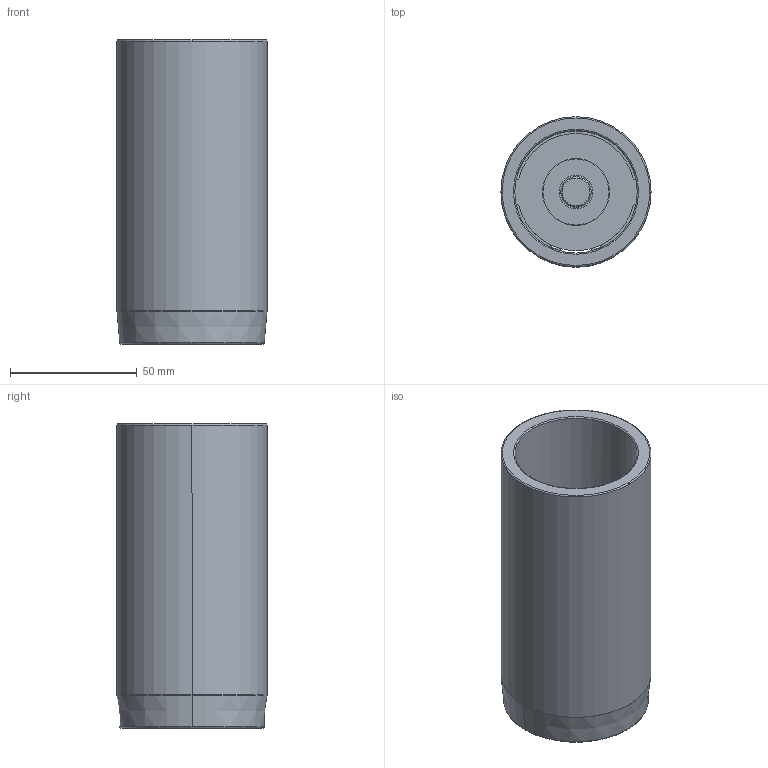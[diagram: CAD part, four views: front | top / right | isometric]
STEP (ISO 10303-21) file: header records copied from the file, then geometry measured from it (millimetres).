
FILE_DESCRIPTION((''),'2;1');
FILE_NAME('C12_048_120.stp','2009-01-28T14:13:25',(''),(''),'Mechanical Desktop 2009','Mechanical Desktop 2009',', , ');
FILE_SCHEMA(('CONFIG_CONTROL_DESIGN'));
Length unit declared in the file: millimetre
Products named in the file (2): Product; blmdl1
Assembly tree (1 placements, depth 2):
  Product
    blmdl1
Bounding box: 59.25 x 59.25 x 120 mm (x, y, z)
Volume: 117121.1 mm3; surface area: 51415.7 mm2
Topology: 5 solids, 5 shells, 79 faces, 200 edges, 134 vertices
Faces by surface type: cylinder 34, plane 29, torus 10, cone 6
Entity records: 2585 total; most frequent: DIRECTION 480, CARTESIAN_POINT 435, ORIENTED_EDGE 400, AXIS2_PLACEMENT_3D 203, EDGE_CURVE 200, VERTEX_POINT 134, CIRCLE 122, EDGE_LOOP 92
